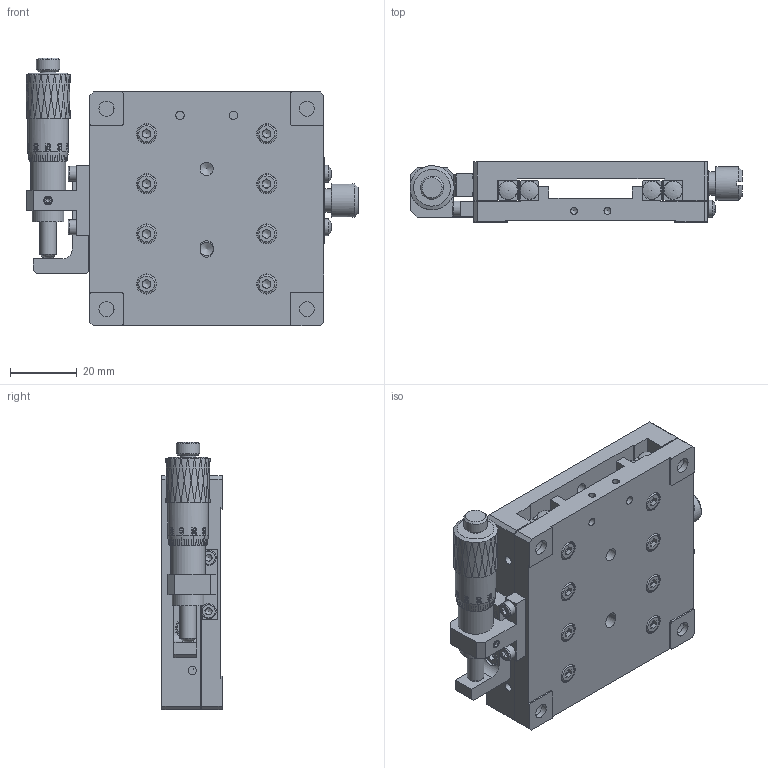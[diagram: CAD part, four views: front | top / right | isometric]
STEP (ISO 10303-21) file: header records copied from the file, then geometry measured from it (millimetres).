
FILE_DESCRIPTION (( 'STEP AP203' ), '1' );
FILE_NAME ('BPTA70.STEP', '2024-07-25T06:57:30', ( 'Windows User' ), ( 'P R C' ), 'SwSTEP 2.0', 'SolidWorks 2024', '' );
FILE_SCHEMA (( 'CONFIG_CONTROL_DESIGN' ));
Products named in the file (1): BPTA70
Bounding box: 99.4 x 18 x 80.1 mm (x, y, z)
Volume: 75649.3 mm3; surface area: 48434.9 mm2
Topology: 37 solids, 37 shells, 1855 faces, 4592 edges, 2950 vertices
Faces by surface type: plane 843, bspline 403, cylinder 338, cone 248, torus 20, sphere 3
Full cylindrical faces by diameter (mm): 2 x22, 2.05 x12, 2.5 x16, 2.55 x16, 2.95 x9, 3 x20, 3.2 x4, 3.3 x9, 3.4 x16, 4 x1, 4.4 x16, 4.5 x6, 5 x5, 5.5 x18, 5.8 x2, 6 x16, 7 x2, 8 x4, 8.5 x1, 9.5 x2, 10 x1, 10.5 x1, 12.2 x1
Entity records: 83846 total; most frequent: CARTESIAN_POINT 45741, ORIENTED_EDGE 8146, DIRECTION 6269, EDGE_CURVE 4073, VERTEX_POINT 2818, EDGE_LOOP 2571, AXIS2_PLACEMENT_3D 2322, FACE_OUTER_BOUND 2060
